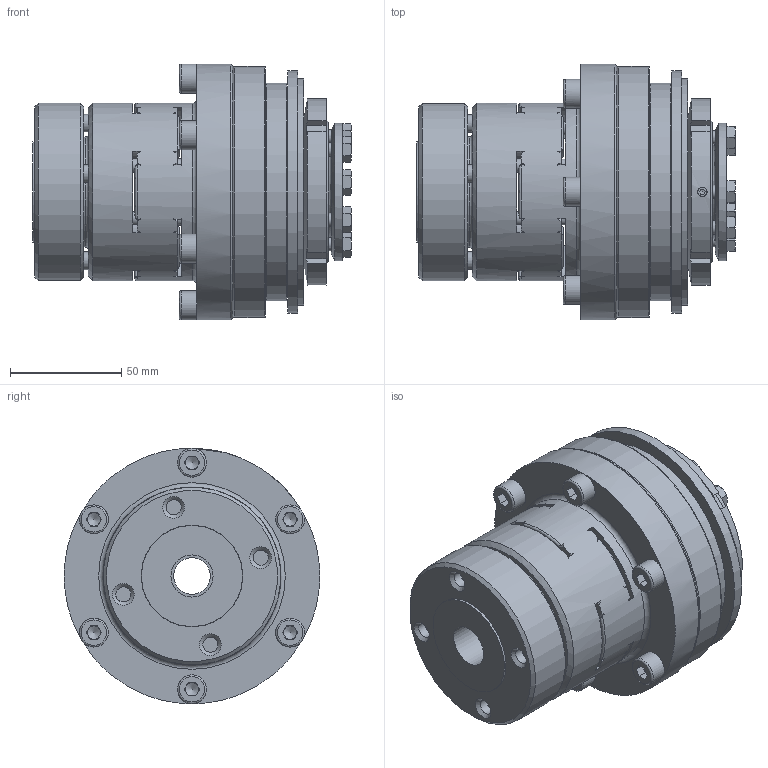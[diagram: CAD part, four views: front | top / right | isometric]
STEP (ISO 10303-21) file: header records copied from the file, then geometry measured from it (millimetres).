
FILE_DESCRIPTION( ( 'Unknown' ), '1' );
FILE_NAME( 'F:/JAKOB-STEP+IGES-Dateien/STEP-Dateien/SKY-ES/SKY-ES 330.stp', 'Unknown', ( 'Unknown' ), ( 'Unknown' ), 'PSStep 10.1', 'Unknown', ' ' );
FILE_SCHEMA( ( 'AUTOMOTIVE_DESIGN { 1 0 10303 214 1 1 1 1 }' ) );
Length unit declared in the file: millimetre
Products named in the file (1): kt100627
Bounding box: 143.5 x 115 x 115 mm (x, y, z)
Volume: 731084.1 mm3; surface area: 174447.3 mm2
Topology: 1 solids, 15 shells, 726 faces, 1948 edges, 1246 vertices
Faces by surface type: plane 313, cylinder 192, cone 128, torus 77, sphere 12, bspline 4
Full cylindrical faces by diameter (mm): 2.5 x2, 4.2 x3, 5 x9, 6 x14, 6.3 x6, 6.8 x14, 8 x10, 8.5 x4, 8.6 x6, 8.7 x6, 13 x10, 13.5 x4, 16.5 x1, 19 x1, 22 x1, 29.5 x1, 38 x2, 38.5 x1, 41.4 x1, 46 x1, 47.5 x1, 49 x1, 49.8 x1, 50 x2, 50.1 x1, 62 x2, 62.5 x2, 65 x1, 65.1 x1, 65.3 x1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
Entity records: 28401 total; most frequent: CARTESIAN_POINT 6256, DIRECTION 3398, ORIENTED_EDGE 3126, EDGE_CURVE 1563, AXIS2_PLACEMENT_3D 1463, VERTEX_POINT 1098, EDGE_LOOP 1071, FACE_OUTER_BOUND 872
